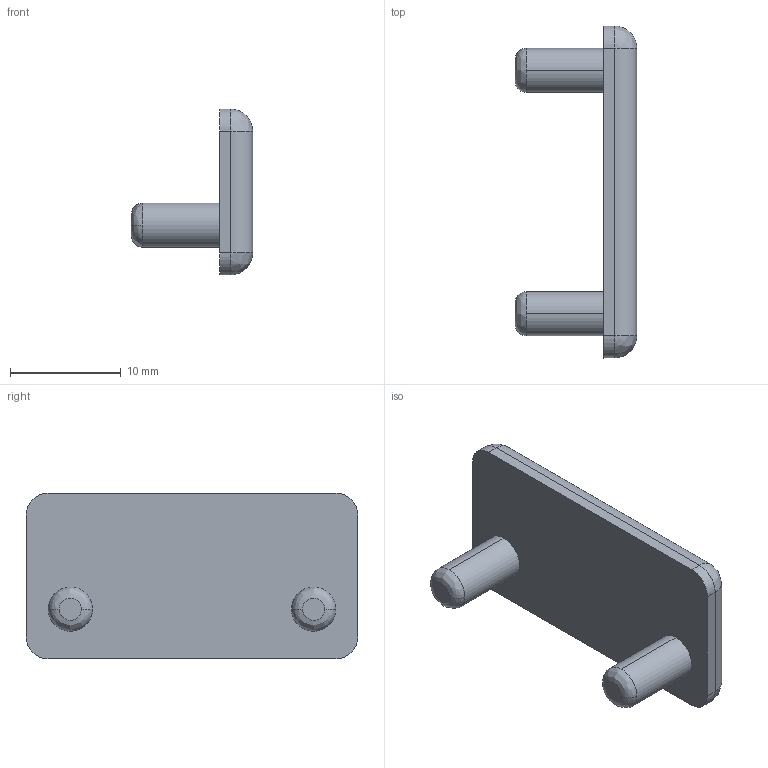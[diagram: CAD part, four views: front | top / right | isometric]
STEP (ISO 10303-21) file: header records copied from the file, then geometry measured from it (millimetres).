
FILE_DESCRIPTION (( 'STEP AP203' ), '1' );
FILE_NAME ('401006_Abdeckkappe 15x30, ESD Einhängeprofil.step', '2022-05-13T07:01:41', ( '' ), ( '' ), 'SwSTEP 2.0', 'SolidWorks 2021', '' );
FILE_SCHEMA (( 'CONFIG_CONTROL_DESIGN' ));
Length unit declared in the file: millimetre
Products named in the file (1): 401006_Abdeckkappe 15x30, ESD Einhängeprofil
Bounding box: 11 x 30 x 15 mm (x, y, z)
Volume: 1464.1 mm3; surface area: 1266.1 mm2
Topology: 1 solids, 1 shells, 28 faces, 68 edges, 40 vertices
Faces by surface type: cylinder 12, bspline 8, plane 8
Entity records: 961 total; most frequent: CARTESIAN_POINT 277, DIRECTION 130, ORIENTED_EDGE 128, EDGE_CURVE 64, AXIS2_PLACEMENT_3D 53, VERTEX_POINT 40, CIRCLE 32, EDGE_LOOP 30
